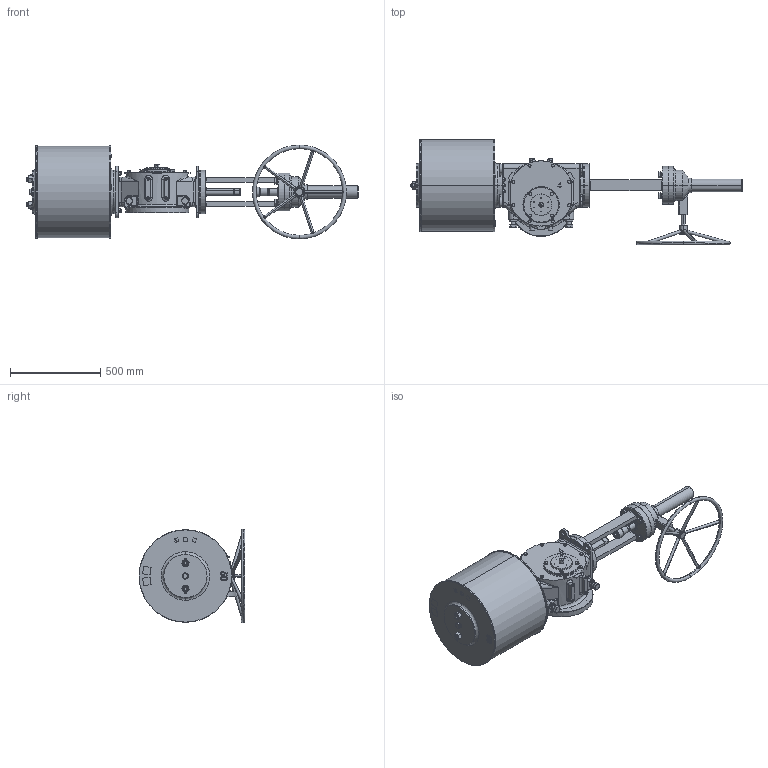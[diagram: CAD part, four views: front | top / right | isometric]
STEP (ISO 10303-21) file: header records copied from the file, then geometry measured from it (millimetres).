
FILE_DESCRIPTION (( 'STEP AP203' ), '1' );
FILE_NAME ('VTS4-500-MGD.STEP', '2022-04-21T02:21:33', ( '' ), ( '' ), 'SwSTEP 2.0', 'SolidWorks 2020', '' );
FILE_SCHEMA (( 'CONFIG_CONTROL_DESIGN' ));
Length unit declared in the file: millimetre
Products named in the file (1): VTS4-500-MGD
Bounding box: 1841.5 x 587 x 520 mm (x, y, z)
Volume: 123732613.5 mm3; surface area: 2906422.1 mm2
Topology: 36 solids, 48 shells, 2457 faces, 6094 edges, 3815 vertices
Faces by surface type: plane 1060, cylinder 795, cone 442, bspline 120, torus 40
Entity records: 90370 total; most frequent: CARTESIAN_POINT 32538, DIRECTION 12211, ORIENTED_EDGE 12004, EDGE_CURVE 6002, AXIS2_PLACEMENT_3D 4793, VERTEX_POINT 3815, EDGE_LOOP 2773, LINE 2625
